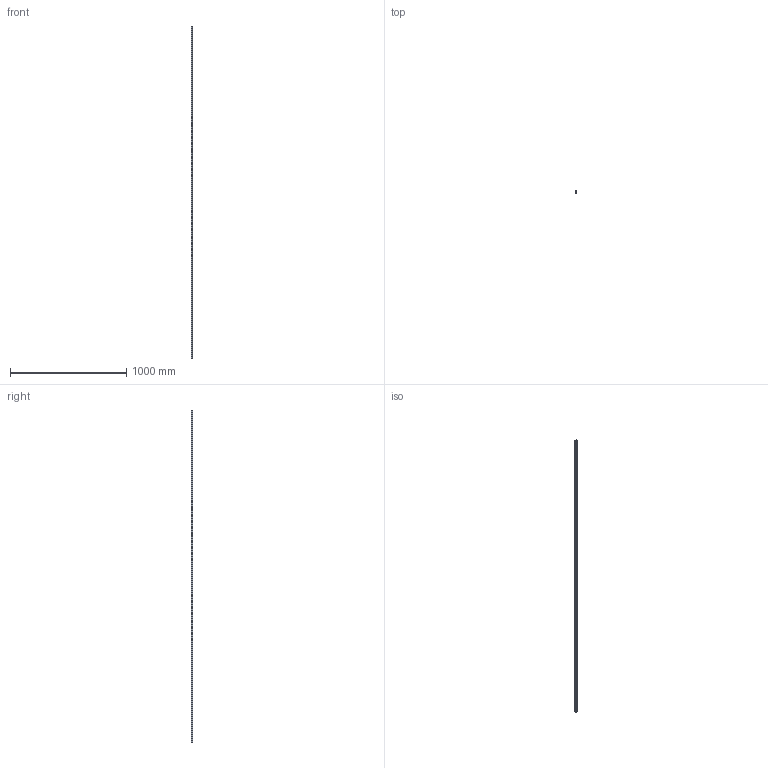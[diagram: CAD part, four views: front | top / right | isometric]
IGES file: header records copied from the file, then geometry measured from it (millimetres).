
Start section: SolidWorks IGES file using analytic representation for surfaces
Global section: file name: C:\Users\IanO\Desktop\L1016_v2\L1016.BL15_v2\L1016.BL15_v2_20190611_IGES\L1016.BL15-2860.igs; native system: SolidWorks 2017; preprocessor: SolidWorks 2017; author: IanO; date: 190612.123400; units: millimetre
Bounding box: 15 x 13 x 2860 mm (x, y, z)
Surface area: 174685.4 mm2 (no closed solid volume)
Topology: 0 solids, 0 shells, 266 faces, 7064 edges, 7064 vertices
Faces by surface type: revolution 196, bspline 70
